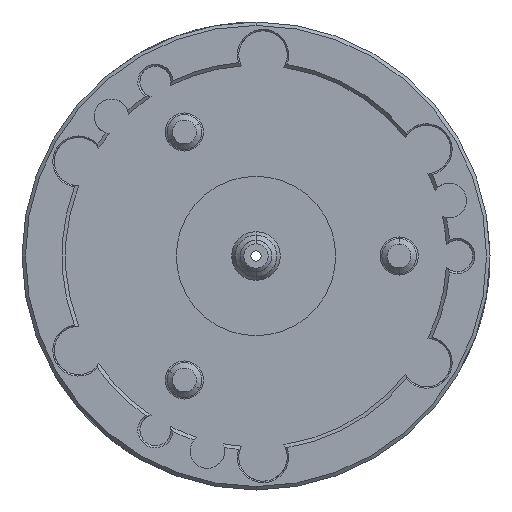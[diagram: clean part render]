
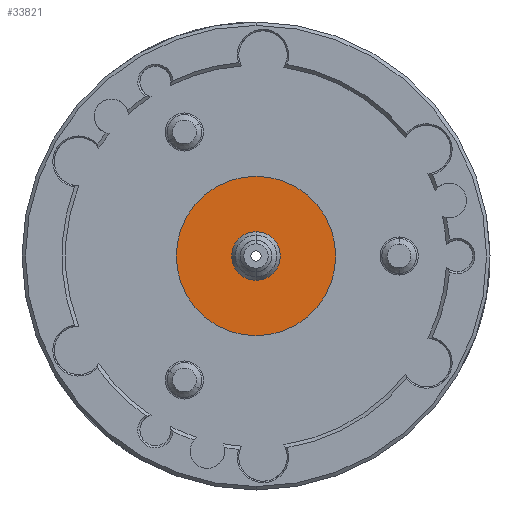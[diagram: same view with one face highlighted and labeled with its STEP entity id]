
A CAD part, left-side view. The second image highlights one B-rep face of the part: STEP entity #33821.
In plain terms, the highlighted planar face has unit normal (-1, 0, 0).
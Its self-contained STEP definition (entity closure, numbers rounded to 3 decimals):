
#2542 = DIRECTION ( 'NONE',  ( 1., 0., 0. ) ) ;
#7883 = ORIENTED_EDGE ( 'NONE', *, *, #9171, .F. ) ;
#7971 = EDGE_CURVE ( 'NONE', #49116, #39519, #45148, .T. ) ;
#8335 = EDGE_CURVE ( 'NONE', #45137, #49149, #44475, .T. ) ;
#8539 = EDGE_CURVE ( 'NONE', #39519, #49116, #45096, .T. ) ;
#9171 = EDGE_CURVE ( 'NONE', #49149, #45137, #19310, .T. ) ;
#10423 = ORIENTED_EDGE ( 'NONE', *, *, #7971, .T. ) ;
#10712 = CARTESIAN_POINT ( 'NONE',  ( -100., -23., 0. ) ) ;
#11184 = AXIS2_PLACEMENT_3D ( 'NONE', #34929, #2542, #34787 ) ;
#13528 = CARTESIAN_POINT ( 'NONE',  ( -100., 0., 0. ) ) ;
#18701 = DIRECTION ( 'NONE',  ( 0., 0., -1. ) ) ;
#18781 = PLANE ( 'NONE',  #50951 ) ;
#18961 = DIRECTION ( 'NONE',  ( 0., 0., -1. ) ) ;
#19231 = DIRECTION ( 'NONE',  ( 1., 0., 0. ) ) ;
#19310 = CIRCLE ( 'NONE', #37435, 23. ) ;
#20173 = AXIS2_PLACEMENT_3D ( 'NONE', #47950, #19231, #39357 ) ;
#23952 = AXIS2_PLACEMENT_3D ( 'NONE', #13528, #48474, #18701 ) ;
#29260 = FACE_BOUND ( 'NONE', #53213, .T. ) ;
#29924 = ORIENTED_EDGE ( 'NONE', *, *, #8335, .F. ) ;
#30264 = CARTESIAN_POINT ( 'NONE',  ( -100., 0., 0. ) ) ;
#32419 = DIRECTION ( 'NONE',  ( 1., 0., 0. ) ) ;
#33821 = ADVANCED_FACE ( 'NONE', ( #29260, #40165 ), #18781, .F. ) ;
#34787 = DIRECTION ( 'NONE',  ( 0., 0., -1. ) ) ;
#34929 = CARTESIAN_POINT ( 'NONE',  ( -100., 0., 0. ) ) ;
#36777 = CARTESIAN_POINT ( 'NONE',  ( -100., 0., -23. ) ) ;
#37435 = AXIS2_PLACEMENT_3D ( 'NONE', #30264, #32419, #52616 ) ;
#37773 = EDGE_LOOP ( 'NONE', ( #29924, #7883 ) ) ;
#39357 = DIRECTION ( 'NONE',  ( 0., 0., -1. ) ) ;
#39519 = VERTEX_POINT ( 'NONE', #39643 ) ;
#39643 = CARTESIAN_POINT ( 'NONE',  ( -100., 0., 7. ) ) ;
#40165 = FACE_OUTER_BOUND ( 'NONE', #37773, .T. ) ;
#43573 = DIRECTION ( 'NONE',  ( 1., 0., 0. ) ) ;
#44475 = CIRCLE ( 'NONE', #23952, 23. ) ;
#45096 = CIRCLE ( 'NONE', #20173, 7. ) ;
#45137 = VERTEX_POINT ( 'NONE', #36777 ) ;
#45148 = CIRCLE ( 'NONE', #11184, 7. ) ;
#47950 = CARTESIAN_POINT ( 'NONE',  ( -100., 0., 0. ) ) ;
#48474 = DIRECTION ( 'NONE',  ( 1., 0., 0. ) ) ;
#48495 = ORIENTED_EDGE ( 'NONE', *, *, #8539, .T. ) ;
#49116 = VERTEX_POINT ( 'NONE', #50818 ) ;
#49149 = VERTEX_POINT ( 'NONE', #50989 ) ;
#50818 = CARTESIAN_POINT ( 'NONE',  ( -100., 0., -7. ) ) ;
#50951 = AXIS2_PLACEMENT_3D ( 'NONE', #10712, #43573, #18961 ) ;
#50989 = CARTESIAN_POINT ( 'NONE',  ( -100., 0., 23. ) ) ;
#52616 = DIRECTION ( 'NONE',  ( 0., 0., -1. ) ) ;
#53213 = EDGE_LOOP ( 'NONE', ( #10423, #48495 ) ) ;
